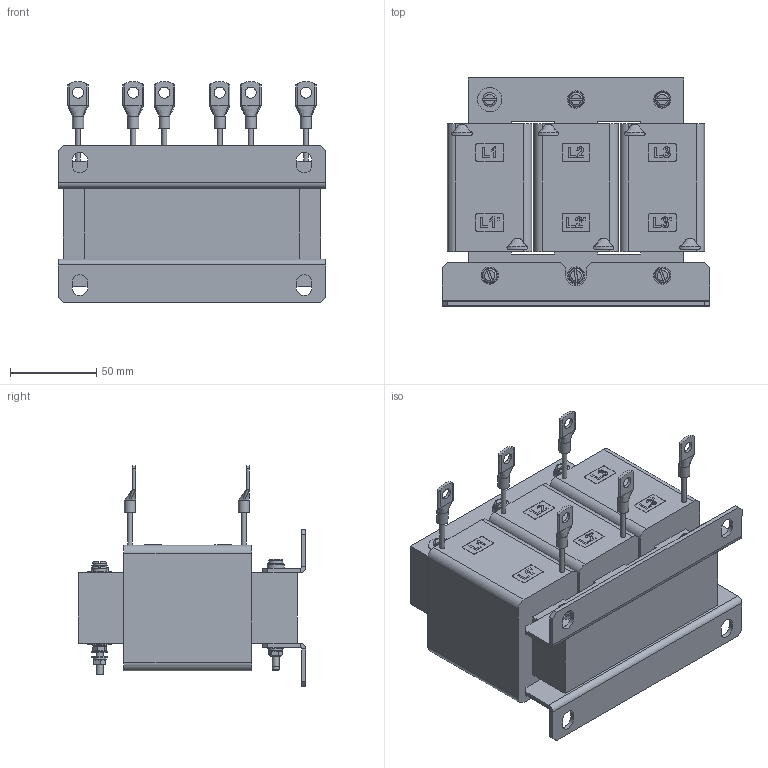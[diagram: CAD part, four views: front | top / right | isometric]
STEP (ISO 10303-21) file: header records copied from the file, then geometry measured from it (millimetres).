
FILE_DESCRIPTION(/* description */ ('raw material description'),/* implementation_level */ '2;1');
FILE_NAME(/* name */ 'P:\Construction\Filter_Marketing\RWK\RWK3044_RWK3062\RWK3044\RWK3044-30-92-E0XXX.stp',/* time_stamp */ '2018-12-10T10:17:17+01:00',/* author */ ('erika.jenzer'),/* organization */ ('Schaffner EMV AG'),/* preprocessor_version */ 'ST-DEVELOPER v16.5',/* originating_system */ 'Autodesk Inventor 2017',/* authorisation */ '');
FILE_SCHEMA (('AUTOMOTIVE_DESIGN { 1 0 10303 214 3 1 1 }'));
Length unit declared in the file: millimetre
Products named in the file (1): RWK3044-30-92-E0XXX
Bounding box: 155 x 132 x 127.97 mm (x, y, z)
Volume: 1095626.9 mm3; surface area: 129752.5 mm2
Topology: 7 solids, 19 shells, 726 faces, 1759 edges, 1158 vertices
Faces by surface type: plane 425, cylinder 182, bspline 74, cone 33, torus 12
Full cylindrical faces by diameter (mm): 2.8 x6, 3.5 x6, 4 x19, 4.1 x6, 4.3 x14, 5.2 x5, 5.3 x3, 5.5 x4, 6.4 x6, 6.5 x6, 8 x7, 9 x12, 10 x5, 13 x1, 14 x2
Entity records: 21704 total; most frequent: CARTESIAN_POINT 5579, ORIENTED_EDGE 3182, DIRECTION 3164, EDGE_CURVE 1591, AXIS2_PLACEMENT_3D 1152, VERTEX_POINT 1125, EDGE_LOOP 1008, LINE 860
